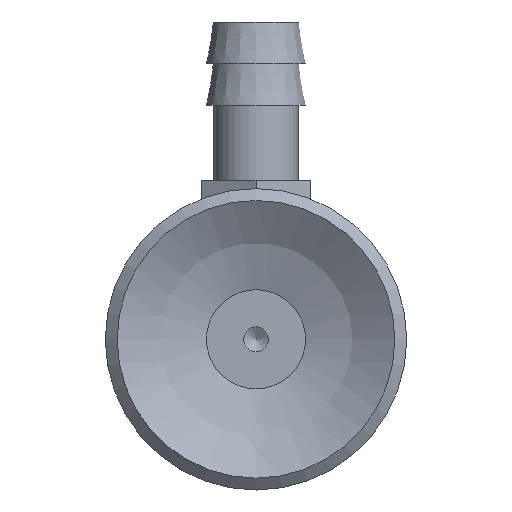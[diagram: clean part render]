
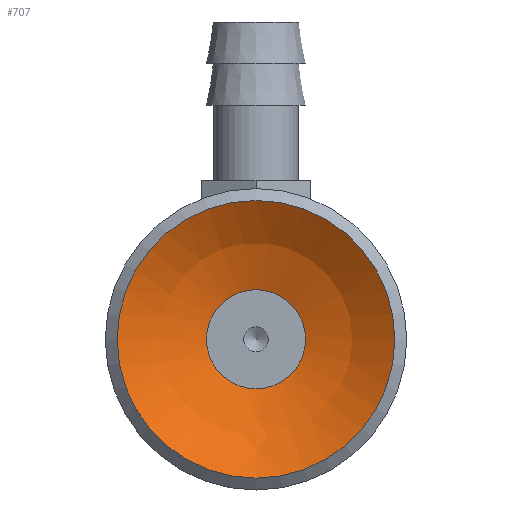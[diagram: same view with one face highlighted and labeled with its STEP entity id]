
A CAD part, front view. The second image highlights one B-rep face of the part: STEP entity #707.
In plain terms, the highlighted spherical face has radius 11.5 mm.
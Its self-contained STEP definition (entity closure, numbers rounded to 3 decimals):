
#707=ADVANCED_FACE('',(#1210,#1211),#1212,.F.);
#1210=FACE_OUTER_BOUND('',#1794,.T.);
#1211=FACE_OUTER_BOUND('',#1795,.T.);
#1212=SPHERICAL_SURFACE('',#1796,11.5);
#1794=EDGE_LOOP('',(#3260));
#1795=EDGE_LOOP('',(#3261));
#1796=AXIS2_PLACEMENT_3D('',#3262,#3263,#3264);
#3260=ORIENTED_EDGE('',*,*,#3972,.T.);
#3261=ORIENTED_EDGE('',*,*,#4016,.F.);
#3262=CARTESIAN_POINT('',(0.001,9.494,-22.735));
#3263=DIRECTION('',(0.0,0.,-1.0));
#3264=DIRECTION('',(1.0,0.0,0.0));
#3972=EDGE_CURVE('',#4718,#4718,#4719,.T.);
#4016=EDGE_CURVE('',#4791,#4791,#4792,.T.);
#4718=VERTEX_POINT('',#6611);
#4719=CIRCLE('',#6612,7.0);
#4791=VERTEX_POINT('',#6684);
#4792=CIRCLE('',#6685,2.5);
#6611=CARTESIAN_POINT('',(0.001,16.494,-13.611));
#6612=AXIS2_PLACEMENT_3D('',#7369,#7370,#7371);
#6684=CARTESIAN_POINT('',(0.001,11.994,-11.51));
#6685=AXIS2_PLACEMENT_3D('',#7501,#7502,#7503);
#7369=CARTESIAN_POINT('',(0.001,9.494,-13.611));
#7370=DIRECTION('',(0.0,0.,-1.0));
#7371=DIRECTION('',(0.0,1.0,0.));
#7501=CARTESIAN_POINT('',(0.001,9.494,-11.51));
#7502=DIRECTION('',(0.0,0.,-1.0));
#7503=DIRECTION('',(0.0,1.0,0.));
